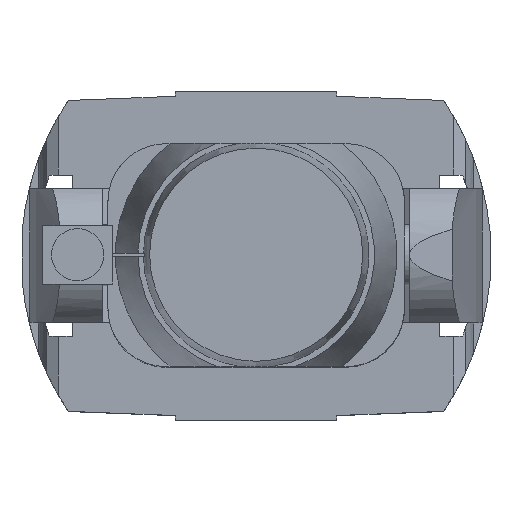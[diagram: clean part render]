
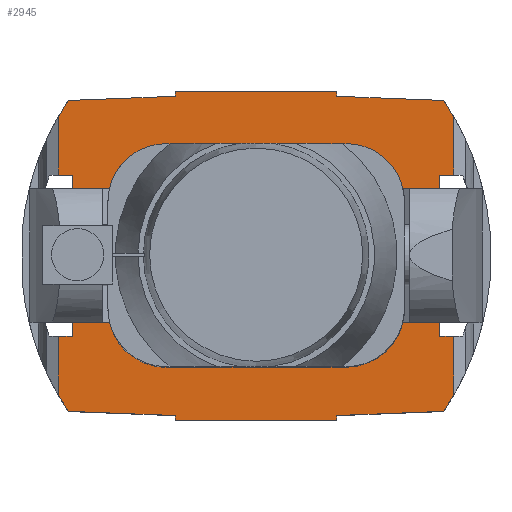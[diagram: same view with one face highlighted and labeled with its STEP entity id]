
A CAD part, top view. The second image highlights one B-rep face of the part: STEP entity #2945.
In plain terms, the highlighted planar face has unit normal (0, 0, 1).
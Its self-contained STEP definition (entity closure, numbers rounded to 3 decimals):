
#191=CIRCLE('',#3214,25.);
#192=CIRCLE('',#3215,286.325);
#193=CIRCLE('',#3216,286.325);
#194=CIRCLE('',#3217,286.325);
#195=CIRCLE('',#3218,286.325);
#442=ORIENTED_EDGE('',*,*,#1223,.T.);
#443=ORIENTED_EDGE('',*,*,#1224,.F.);
#444=ORIENTED_EDGE('',*,*,#1225,.F.);
#445=ORIENTED_EDGE('',*,*,#1101,.F.);
#446=ORIENTED_EDGE('',*,*,#1226,.F.);
#447=ORIENTED_EDGE('',*,*,#1227,.F.);
#448=ORIENTED_EDGE('',*,*,#1228,.F.);
#449=ORIENTED_EDGE('',*,*,#1186,.T.);
#450=ORIENTED_EDGE('',*,*,#1183,.F.);
#451=ORIENTED_EDGE('',*,*,#1174,.F.);
#452=ORIENTED_EDGE('',*,*,#1178,.T.);
#453=ORIENTED_EDGE('',*,*,#1229,.F.);
#454=ORIENTED_EDGE('',*,*,#1230,.T.);
#455=ORIENTED_EDGE('',*,*,#1231,.T.);
#456=ORIENTED_EDGE('',*,*,#1232,.T.);
#457=ORIENTED_EDGE('',*,*,#1233,.T.);
#458=ORIENTED_EDGE('',*,*,#1234,.T.);
#459=ORIENTED_EDGE('',*,*,#1235,.T.);
#460=ORIENTED_EDGE('',*,*,#1236,.T.);
#461=ORIENTED_EDGE('',*,*,#1237,.T.);
#462=ORIENTED_EDGE('',*,*,#1156,.T.);
#463=ORIENTED_EDGE('',*,*,#1160,.F.);
#464=ORIENTED_EDGE('',*,*,#1181,.F.);
#465=ORIENTED_EDGE('',*,*,#1221,.F.);
#466=ORIENTED_EDGE('',*,*,#1238,.F.);
#1101=EDGE_CURVE('',#1514,#1511,#1805,.T.);
#1156=EDGE_CURVE('',#1568,#1567,#1832,.T.);
#1160=EDGE_CURVE('',#1569,#1567,#1836,.T.);
#1174=EDGE_CURVE('',#1582,#1583,#1840,.T.);
#1178=EDGE_CURVE('',#1582,#1584,#1844,.T.);
#1181=EDGE_CURVE('',#1585,#1569,#1847,.T.);
#1183=EDGE_CURVE('',#1583,#1586,#1849,.T.);
#1186=EDGE_CURVE('',#1588,#1586,#1852,.T.);
#1221=EDGE_CURVE('',#1608,#1585,#1872,.T.);
#1223=EDGE_CURVE('',#1609,#1609,#191,.T.);
#1224=EDGE_CURVE('',#1610,#1611,#1873,.T.);
#1225=EDGE_CURVE('',#1511,#1610,#1874,.T.);
#1226=EDGE_CURVE('',#1612,#1514,#1875,.T.);
#1227=EDGE_CURVE('',#1613,#1612,#1876,.T.);
#1228=EDGE_CURVE('',#1588,#1613,#192,.T.);
#1229=EDGE_CURVE('',#1614,#1584,#1877,.T.);
#1230=EDGE_CURVE('',#1614,#1615,#193,.T.);
#1231=EDGE_CURVE('',#1615,#1616,#1878,.T.);
#1232=EDGE_CURVE('',#1616,#1617,#1879,.T.);
#1233=EDGE_CURVE('',#1617,#1618,#1880,.T.);
#1234=EDGE_CURVE('',#1618,#1619,#1881,.T.);
#1235=EDGE_CURVE('',#1619,#1620,#1882,.T.);
#1236=EDGE_CURVE('',#1620,#1621,#194,.T.);
#1237=EDGE_CURVE('',#1621,#1568,#1883,.T.);
#1238=EDGE_CURVE('',#1611,#1608,#195,.T.);
#1511=VERTEX_POINT('',#4377);
#1514=VERTEX_POINT('',#4382);
#1567=VERTEX_POINT('',#4515);
#1568=VERTEX_POINT('',#4517);
#1569=VERTEX_POINT('',#4522);
#1582=VERTEX_POINT('',#4573);
#1583=VERTEX_POINT('',#4575);
#1584=VERTEX_POINT('',#4580);
#1585=VERTEX_POINT('',#4585);
#1586=VERTEX_POINT('',#4590);
#1588=VERTEX_POINT('',#4596);
#1608=VERTEX_POINT('',#4685);
#1609=VERTEX_POINT('',#4689);
#1610=VERTEX_POINT('',#4691);
#1611=VERTEX_POINT('',#4692);
#1612=VERTEX_POINT('',#4695);
#1613=VERTEX_POINT('',#4697);
#1614=VERTEX_POINT('',#4700);
#1615=VERTEX_POINT('',#4702);
#1616=VERTEX_POINT('',#4704);
#1617=VERTEX_POINT('',#4706);
#1618=VERTEX_POINT('',#4708);
#1619=VERTEX_POINT('',#4710);
#1620=VERTEX_POINT('',#4712);
#1621=VERTEX_POINT('',#4714);
#1805=LINE('',#4383,#2053);
#1832=LINE('',#4516,#2080);
#1836=LINE('',#4523,#2084);
#1840=LINE('',#4574,#2088);
#1844=LINE('',#4581,#2092);
#1847=LINE('',#4586,#2095);
#1849=LINE('',#4589,#2097);
#1852=LINE('',#4595,#2100);
#1872=LINE('',#4684,#2120);
#1873=LINE('',#4690,#2121);
#1874=LINE('',#4693,#2122);
#1875=LINE('',#4694,#2123);
#1876=LINE('',#4696,#2124);
#1877=LINE('',#4699,#2125);
#1878=LINE('',#4703,#2126);
#1879=LINE('',#4705,#2127);
#1880=LINE('',#4707,#2128);
#1881=LINE('',#4709,#2129);
#1882=LINE('',#4711,#2130);
#1883=LINE('',#4715,#2131);
#2053=VECTOR('',#3486,1000.);
#2080=VECTOR('',#3567,1000.);
#2084=VECTOR('',#3573,1000.);
#2088=VECTOR('',#3593,1000.);
#2092=VECTOR('',#3599,1000.);
#2095=VECTOR('',#3604,1000.);
#2097=VECTOR('',#3608,1000.);
#2100=VECTOR('',#3613,1000.);
#2120=VECTOR('',#3681,1000.);
#2121=VECTOR('',#3688,1000.);
#2122=VECTOR('',#3689,1000.);
#2123=VECTOR('',#3690,1000.);
#2124=VECTOR('',#3691,1000.);
#2125=VECTOR('',#3694,1000.);
#2126=VECTOR('',#3697,1000.);
#2127=VECTOR('',#3698,1000.);
#2128=VECTOR('',#3699,1000.);
#2129=VECTOR('',#3700,1000.);
#2130=VECTOR('',#3701,1000.);
#2131=VECTOR('',#3704,1000.);
#2335=EDGE_LOOP('',(#442));
#2336=EDGE_LOOP('',(#443,#444,#445,#446,#447,#448,#449,#450,#451,#452,#453,
#454,#455,#456,#457,#458,#459,#460,#461,#462,#463,#464,#465,#466));
#2587=FACE_BOUND('',#2335,.T.);
#2588=FACE_BOUND('',#2336,.T.);
#2813=PLANE('',#3213);
#2945=ADVANCED_FACE('',(#2587,#2588),#2813,.F.);
#3213=AXIS2_PLACEMENT_3D('',#4687,#3684,#3685);
#3214=AXIS2_PLACEMENT_3D('',#4688,#3686,#3687);
#3215=AXIS2_PLACEMENT_3D('',#4698,#3692,#3693);
#3216=AXIS2_PLACEMENT_3D('',#4701,#3695,#3696);
#3217=AXIS2_PLACEMENT_3D('',#4713,#3702,#3703);
#3218=AXIS2_PLACEMENT_3D('',#4716,#3705,#3706);
#3486=DIRECTION('',(-1.,0.,0.));
#3567=DIRECTION('',(1.,0.,0.));
#3573=DIRECTION('',(0.,1.,0.));
#3593=DIRECTION('',(0.,-1.,0.));
#3599=DIRECTION('',(1.,0.,0.));
#3604=DIRECTION('',(1.,0.,0.));
#3608=DIRECTION('',(1.,0.,0.));
#3613=DIRECTION('',(0.,1.,0.));
#3681=DIRECTION('',(0.,1.,0.));
#3684=DIRECTION('',(0.,0.,-1.));
#3685=DIRECTION('',(-1.,0.,0.));
#3686=DIRECTION('',(0.,0.,-1.));
#3687=DIRECTION('',(-1.,0.,0.));
#3688=DIRECTION('',(-0.999,0.039,0.));
#3689=DIRECTION('',(0.,1.,0.));
#3690=DIRECTION('',(0.,-1.,0.));
#3691=DIRECTION('',(-0.999,-0.039,0.));
#3692=DIRECTION('',(0.,0.,-1.));
#3693=DIRECTION('',(-1.,0.,0.));
#3694=DIRECTION('',(0.,-1.,0.));
#3695=DIRECTION('',(0.,0.,1.));
#3696=DIRECTION('',(1.,0.,0.));
#3697=DIRECTION('',(-0.999,0.039,0.));
#3698=DIRECTION('',(0.,1.,0.));
#3699=DIRECTION('',(-1.,0.,0.));
#3700=DIRECTION('',(0.,-1.,0.));
#3701=DIRECTION('',(-0.999,-0.039,0.));
#3702=DIRECTION('',(0.,0.,1.));
#3703=DIRECTION('',(1.,0.,0.));
#3704=DIRECTION('',(0.,-1.,0.));
#3705=DIRECTION('',(0.,0.,-1.));
#3706=DIRECTION('',(-1.,0.,0.));
#4377=CARTESIAN_POINT('',(-83.303,-169.654,102.853));
#4382=CARTESIAN_POINT('',(83.303,-169.654,102.853));
#4383=CARTESIAN_POINT('',(-83.303,-169.654,102.853));
#4515=CARTESIAN_POINT('',(-189.287,83.367,102.853));
#4516=CARTESIAN_POINT('',(-212.646,83.367,102.853));
#4517=CARTESIAN_POINT('',(-203.675,83.367,102.853));
#4522=CARTESIAN_POINT('',(-189.287,-82.964,102.853));
#4523=CARTESIAN_POINT('',(-189.287,83.367,102.853));
#4573=CARTESIAN_POINT('',(189.287,83.367,102.853));
#4574=CARTESIAN_POINT('',(189.287,83.367,102.853));
#4575=CARTESIAN_POINT('',(189.287,-82.964,102.853));
#4580=CARTESIAN_POINT('',(203.675,83.367,102.853));
#4581=CARTESIAN_POINT('',(212.646,83.367,102.853));
#4585=CARTESIAN_POINT('',(-203.675,-82.964,102.853));
#4586=CARTESIAN_POINT('',(-212.646,-82.964,102.853));
#4589=CARTESIAN_POINT('',(212.646,-82.964,102.853));
#4590=CARTESIAN_POINT('',(203.675,-82.964,102.853));
#4595=CARTESIAN_POINT('',(203.675,-602.76,102.853));
#4596=CARTESIAN_POINT('',(203.675,-143.751,102.853));
#4684=CARTESIAN_POINT('',(-203.675,-602.76,102.853));
#4685=CARTESIAN_POINT('',(-203.675,-143.751,102.853));
#4687=CARTESIAN_POINT('',(203.675,-602.76,102.853));
#4688=CARTESIAN_POINT('',(0.,0.,102.853));
#4689=CARTESIAN_POINT('',(-25.,0.,102.853));
#4690=CARTESIAN_POINT('',(-193.314,-160.277,102.853));
#4691=CARTESIAN_POINT('',(-83.303,-164.605,102.853));
#4692=CARTESIAN_POINT('',(-193.314,-160.277,102.853));
#4693=CARTESIAN_POINT('',(-83.303,-164.605,102.853));
#4694=CARTESIAN_POINT('',(83.303,-164.605,102.853));
#4695=CARTESIAN_POINT('',(83.303,-164.605,102.853));
#4696=CARTESIAN_POINT('',(193.314,-160.277,102.853));
#4697=CARTESIAN_POINT('',(193.314,-160.277,102.853));
#4698=CARTESIAN_POINT('',(-43.959,-0.017,102.853));
#4699=CARTESIAN_POINT('',(203.675,602.76,102.853));
#4700=CARTESIAN_POINT('',(203.675,143.718,102.853));
#4701=CARTESIAN_POINT('',(-43.959,-0.017,102.853));
#4702=CARTESIAN_POINT('',(193.296,160.271,102.853));
#4703=CARTESIAN_POINT('',(193.296,160.271,102.853));
#4704=CARTESIAN_POINT('',(83.303,164.605,102.853));
#4705=CARTESIAN_POINT('',(83.303,164.605,102.853));
#4706=CARTESIAN_POINT('',(83.303,169.654,102.853));
#4707=CARTESIAN_POINT('',(-83.303,169.654,102.853));
#4708=CARTESIAN_POINT('',(-83.303,169.654,102.853));
#4709=CARTESIAN_POINT('',(-83.303,164.605,102.853));
#4710=CARTESIAN_POINT('',(-83.303,164.605,102.853));
#4711=CARTESIAN_POINT('',(-193.296,160.271,102.853));
#4712=CARTESIAN_POINT('',(-193.296,160.271,102.853));
#4713=CARTESIAN_POINT('',(43.959,-0.017,102.853));
#4714=CARTESIAN_POINT('',(-203.675,143.718,102.853));
#4715=CARTESIAN_POINT('',(-203.675,602.76,102.853));
#4716=CARTESIAN_POINT('',(43.959,-0.017,102.853));
